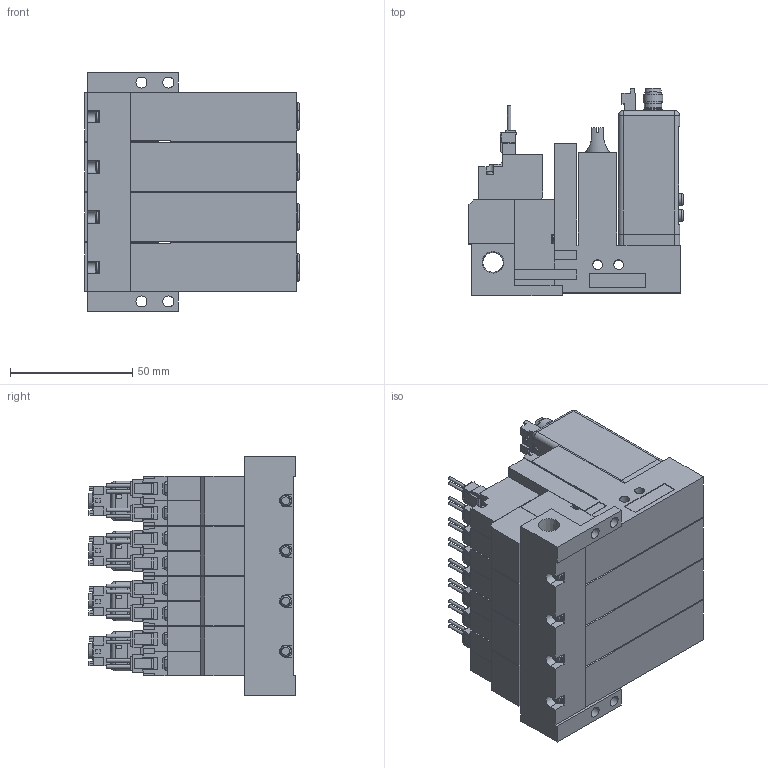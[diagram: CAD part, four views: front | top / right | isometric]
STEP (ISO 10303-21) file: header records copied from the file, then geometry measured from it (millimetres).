
FILE_DESCRIPTION(('STEP AP203'),'1');
FILE_NAME('22_22PL5BLR404.stp','2025-06-12T03:11:49',(' '),(' '),'Spatial InterOp 3D',' ',' ');
FILE_SCHEMA(('CONFIG_CONTROL_DESIGN'));
Length unit declared in the file: millimetre
Products named in the file (8): BMC22M※※※※22_22PL5BLR404; Solenoid valve B; Unit L; Base MR40R; MVS-202
Assembly tree (13 placements, depth 2):
  BMC22M※※※※22_22PL5BLR404
    Solenoid valve B  x4
    Unit L  x4
    Base MR40R
    MVS-202
    MVS-202
    MVS-202
    MVS-202
Bounding box: 87.5 x 84.6 x 97.5 mm (x, y, z)
Volume: 386889.9 mm3; surface area: 117338.8 mm2
Topology: 13 solids, 29 shells, 2997 faces, 7803 edges, 5100 vertices
Faces by surface type: plane 2518, cylinder 373, cone 66, torus 24, sphere 16
Full cylindrical faces by diameter (mm): 1 x16, 1.4 x16, 1.5 x4, 2.5 x4, 3 x16, 3.5 x16, 3.6 x4, 4 x8, 4.134 x4, 4.5 x20, 4.8 x12, 5 x8, 5.2 x4, 5.8 x8, 6 x8, 6.5 x12, 6.6 x4, 7 x4, 7.2 x4, 7.9 x4, 8 x8, 8.279 x1
Entity records: 61728 total; most frequent: CARTESIAN_POINT 11111, ORIENTED_EDGE 10104, DIRECTION 9956, EDGE_CURVE 5052, LINE 4264, VECTOR 4264, VERTEX_POINT 3421, AXIS2_PLACEMENT_3D 2846
